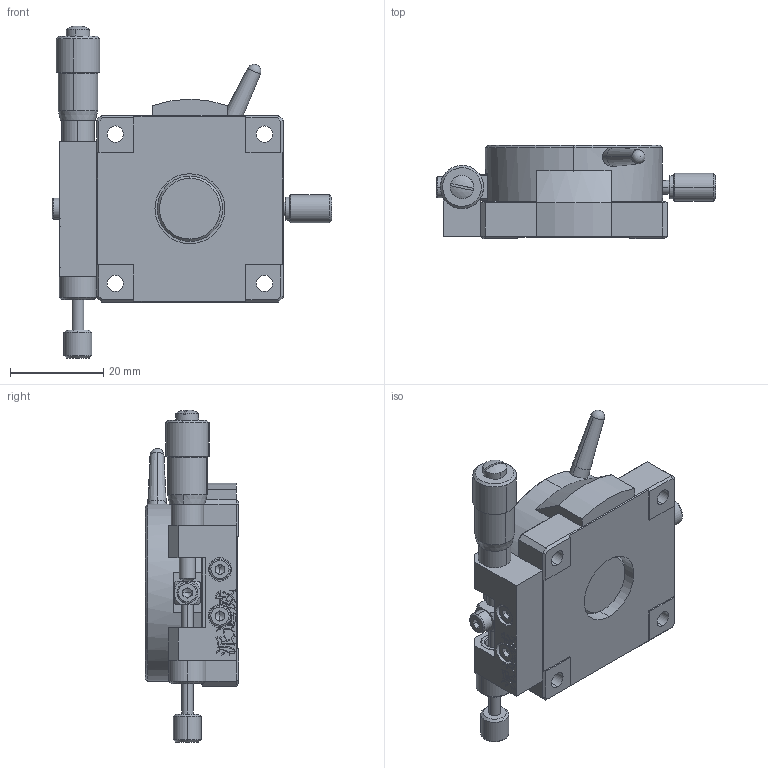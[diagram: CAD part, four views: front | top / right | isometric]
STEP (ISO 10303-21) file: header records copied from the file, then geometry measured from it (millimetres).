
FILE_DESCRIPTION (( 'STEP AP214' ), '1' );
FILE_NAME ('PR40-L.STEP', '2022-09-24T09:18:25', ( '' ), ( '' ), 'SwSTEP 2.0', 'SolidWorks 2017', '' );
FILE_SCHEMA (( 'AUTOMOTIVE_DESIGN' ));
Length unit declared in the file: millimetre
Products named in the file (5): PR40-L; RSP40L-2; MT6.5-2-1; RSP40L-1; RS60S-1
Assembly tree (4 placements, depth 2):
  PR40-L
    RSP40L-2
    RSP40L-1
    MT6.5-2-1
    RS60S-1
Bounding box: 59.9 x 20 x 71.18 mm (x, y, z)
Volume: 29525.3 mm3; surface area: 14117.4 mm2
Topology: 4 solids, 8 shells, 865 faces, 2252 edges, 1465 vertices
Faces by surface type: plane 455, bspline 227, cylinder 118, cone 55, torus 6, sphere 4
Entity records: 35965 total; most frequent: CARTESIAN_POINT 15925, ORIENTED_EDGE 4462, DIRECTION 3390, EDGE_CURVE 2231, VERTEX_POINT 1463, VECTOR 1408, LINE 1408, AXIS2_PLACEMENT_3D 991
